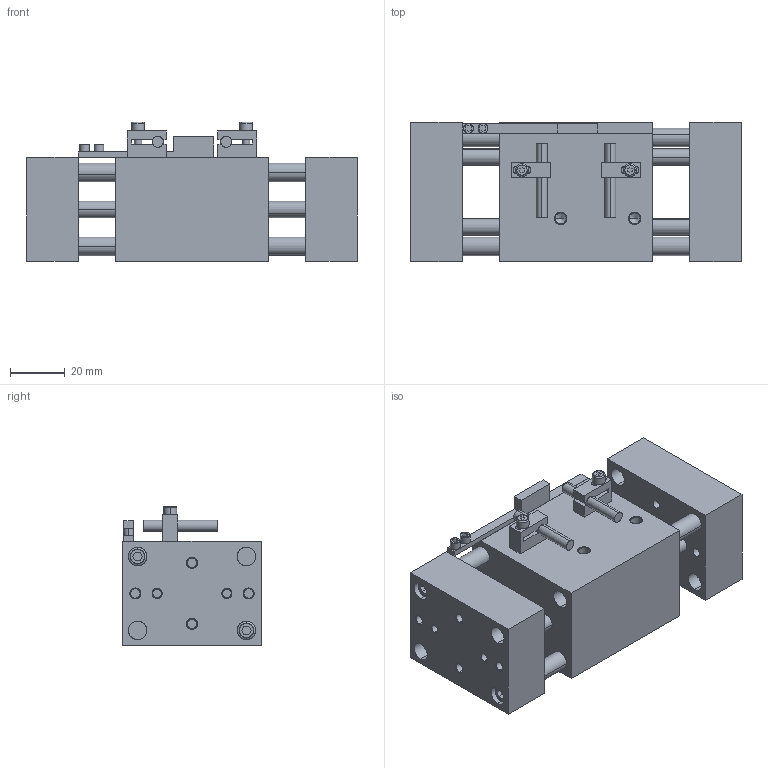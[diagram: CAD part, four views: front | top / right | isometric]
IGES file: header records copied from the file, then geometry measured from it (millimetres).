
Start section: SolidWorks IGES file using analytic representation for surfaces
Global section: file name: C:\Users\jmkuhnes\Pictures\AGW\AGW-375-1\AGW-375-1 OPEN in IN.IGS; native system: SolidWorks 2013; preprocessor: SolidWorks 2013; author: jmkuhnes; date: 141103.093829; units: inch
Bounding box: 120.4 x 50.8 x 50.8 mm (x, y, z)
Surface area: 53345.9 mm2 (no closed solid volume)
Topology: 0 solids, 0 shells, 378 faces, 5396 edges, 5376 vertices
Faces by surface type: revolution 202, bspline 176
